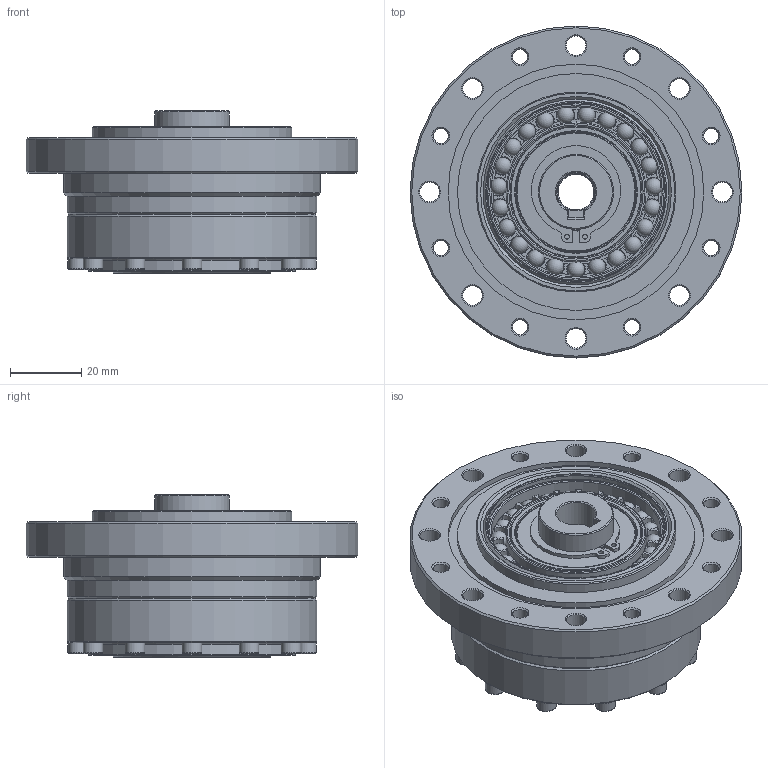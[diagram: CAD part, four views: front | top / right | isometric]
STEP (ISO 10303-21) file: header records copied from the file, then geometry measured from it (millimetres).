
FILE_DESCRIPTION(/* description */ (''),/* implementation_level */ '2;1');
FILE_NAME(/* name */ 'LSG-20-XX-U-II-φ11.stp',/* time_stamp */ '2023-06-29T10:02:07+08:00',/* author */ (''),/* organization */ (''),/* preprocessor_version */ 'ST-DEVELOPER v16.7',/* originating_system */ 'SIEMENS PLM Software NX 12.0',/* authorisation */ '');
FILE_SCHEMA (('AUTOMOTIVE_DESIGN { 1 0 10303 214 3 1 1 1 }'));
Length unit declared in the file: millimetre
Products named in the file (18): EB375007-20KC-46; EB375007-20KE-01; TC-45x55x4; O-54x1; GB-T70.1-2000,M3x16; GB-T70.1-2000,M5x16; 轴用弹性挡圈φ21; 销子3x10; CSG-20-00-01-K11; 铜垫圈21.5x33.5x1; CS-20-XX-03; CSG-20-00-02; 柔轮垫块LSS-20; 刚轮LSS-20; 柔轮LSS-20; EB375007-20KE; 交叉轴承LSS-20; LSG-20-XX-U-II-φ11
Assembly tree (38 placements, depth 3):
  LSG-20-XX-U-II-φ11
    交叉轴承LSS-20
      TC-45x55x4
    柔轮LSS-20
    刚轮LSS-20
    柔轮垫块LSS-20
    EB375007-20KE
      EB375007-20KE-01
      EB375007-20KC-46
    CSG-20-00-02
    CS-20-XX-03
    铜垫圈21.5x33.5x1
    CSG-20-00-01-K11
    销子3x10  x4
    轴用弹性挡圈φ21
    GB-T70.1-2000,M5x16  x8
    GB-T70.1-2000,M3x16  x12
    O-54x1
Bounding box: 93 x 93 x 45.5 mm (x, y, z)
Volume: 130676.9 mm3; surface area: 90919.7 mm2
Topology: 62 solids, 62 shells, 1298 faces, 2897 edges, 1723 vertices
Faces by surface type: plane 515, cone 377, cylinder 258, torus 124, sphere 23, revolution 1
Full cylindrical faces by diameter (mm): 1.4 x2, 2.5 x12, 2.874 x12, 3 x12, 3.5 x12, 4.2 x16, 4.826 x8, 5 x8, 5.5 x36, 8.5 x8, 10 x1, 14 x3, 20 x1, 21 x2, 21.5 x1, 22 x2, 31 x1, 33.5 x1, 34 x2, 35 x2, 37 x2, 39.25 x2, 40.2 x1, 40.64 x1, 43 x1, 44 x1, 44.5 x1, 45 x2, 45.4 x1, 46.36 x1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
Entity records: 22770 total; most frequent: CARTESIAN_POINT 5012, DIRECTION 3791, ORIENTED_EDGE 2804, AXIS2_PLACEMENT_3D 1700, EDGE_CURVE 1402, EDGE_LOOP 1358, VERTEX_POINT 1120, FACE_BOUND 1072
